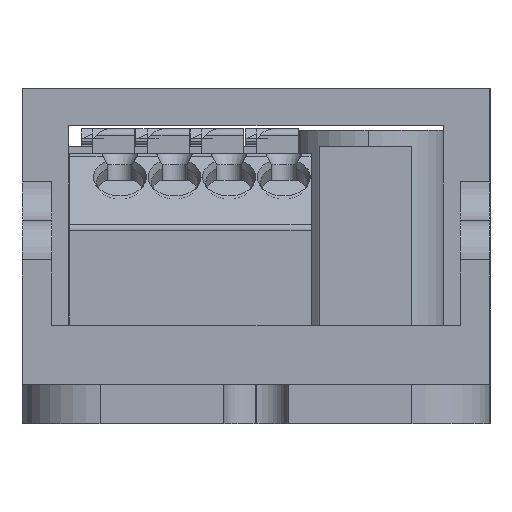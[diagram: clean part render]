
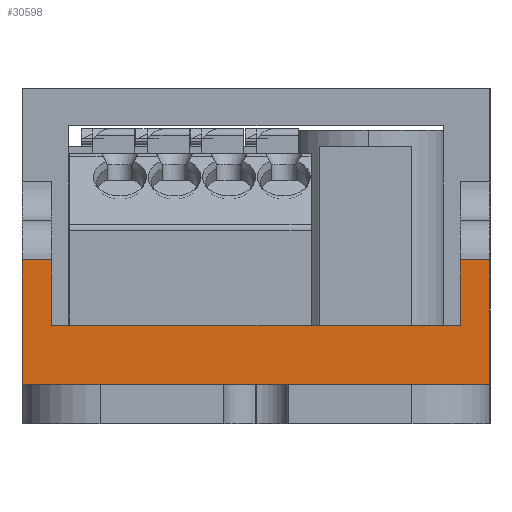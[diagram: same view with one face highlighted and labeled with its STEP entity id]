
A CAD part, left-side view. The second image highlights one B-rep face of the part: STEP entity #30598.
In plain terms, the highlighted planar face has unit normal (-1, 0, 0).
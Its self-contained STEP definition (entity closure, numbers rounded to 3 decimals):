
#108 = ORIENTED_EDGE ( 'NONE', *, *, #5681, .F. ) ;
#1494 = DIRECTION ( 'NONE',  ( 0., 0., 1. ) ) ;
#1638 = VECTOR ( 'NONE', #14636, 1000. ) ;
#1778 = DIRECTION ( 'NONE',  ( 0., 1., 0. ) ) ;
#2051 = VERTEX_POINT ( 'NONE', #5209 ) ;
#3719 = PLANE ( 'NONE',  #38130 ) ;
#4888 = VECTOR ( 'NONE', #23716, 1000. ) ;
#5209 = CARTESIAN_POINT ( 'NONE',  ( 7.9, 1.9, 6.3 ) ) ;
#5410 = VECTOR ( 'NONE', #10014, 1000. ) ;
#5681 = EDGE_CURVE ( 'NONE', #29736, #2051, #29822, .T. ) ;
#5984 = EDGE_LOOP ( 'NONE', ( #6986, #18323, #16624, #108, #21361, #30843, #20085, #23702 ) ) ;
#6226 = CARTESIAN_POINT ( 'NONE',  ( 7.9, 0., 21.5 ) ) ;
#6986 = ORIENTED_EDGE ( 'NONE', *, *, #22334, .F. ) ;
#9024 = VECTOR ( 'NONE', #26530, 1000. ) ;
#10014 = DIRECTION ( 'NONE',  ( 0., 1., 0. ) ) ;
#10332 = VERTEX_POINT ( 'NONE', #28298 ) ;
#12875 = CARTESIAN_POINT ( 'NONE',  ( 7.9, 1.9, 10.5 ) ) ;
#13686 = FACE_OUTER_BOUND ( 'NONE', #5984, .T. ) ;
#13724 = CARTESIAN_POINT ( 'NONE',  ( 7.9, 1.9, 10.5 ) ) ;
#14636 = DIRECTION ( 'NONE',  ( 0., 0., 1. ) ) ;
#15556 = VERTEX_POINT ( 'NONE', #38900 ) ;
#16199 = EDGE_CURVE ( 'NONE', #10332, #24171, #25554, .T. ) ;
#16357 = CARTESIAN_POINT ( 'NONE',  ( 7.9, 28.1, 6.3 ) ) ;
#16624 = ORIENTED_EDGE ( 'NONE', *, *, #40848, .F. ) ;
#17683 = CARTESIAN_POINT ( 'NONE',  ( 7.9, 28.1, 24.587 ) ) ;
#17884 = VECTOR ( 'NONE', #31753, 1000. ) ;
#17966 = LINE ( 'NONE', #30594, #1638 ) ;
#18120 = VERTEX_POINT ( 'NONE', #24875 ) ;
#18323 = ORIENTED_EDGE ( 'NONE', *, *, #16199, .T. ) ;
#19632 = VERTEX_POINT ( 'NONE', #27289 ) ;
#20085 = ORIENTED_EDGE ( 'NONE', *, *, #27046, .F. ) ;
#20401 = CARTESIAN_POINT ( 'NONE',  ( 7.9, 30., 10.5 ) ) ;
#20461 = EDGE_CURVE ( 'NONE', #20600, #19632, #39564, .T. ) ;
#20600 = VERTEX_POINT ( 'NONE', #31421 ) ;
#21262 = VECTOR ( 'NONE', #1494, 1000. ) ;
#21361 = ORIENTED_EDGE ( 'NONE', *, *, #22157, .F. ) ;
#22157 = EDGE_CURVE ( 'NONE', #18120, #29736, #30098, .T. ) ;
#22334 = EDGE_CURVE ( 'NONE', #10332, #20600, #34639, .T. ) ;
#23163 = EDGE_CURVE ( 'NONE', #18120, #15556, #35299, .T. ) ;
#23523 = LINE ( 'NONE', #32208, #21262 ) ;
#23702 = ORIENTED_EDGE ( 'NONE', *, *, #20461, .F. ) ;
#23716 = DIRECTION ( 'NONE',  ( 0., 0., -1. ) ) ;
#23941 = VECTOR ( 'NONE', #31534, 1000. ) ;
#24171 = VERTEX_POINT ( 'NONE', #13724 ) ;
#24875 = CARTESIAN_POINT ( 'NONE',  ( 7.9, 28.1, 10.5 ) ) ;
#25554 = LINE ( 'NONE', #12875, #17884 ) ;
#26388 = CARTESIAN_POINT ( 'NONE',  ( 7.9, 28.1, 6.3 ) ) ;
#26530 = DIRECTION ( 'NONE',  ( 0., -1., 0. ) ) ;
#27046 = EDGE_CURVE ( 'NONE', #19632, #15556, #17966, .T. ) ;
#27289 = CARTESIAN_POINT ( 'NONE',  ( 7.9, 30., 2.5 ) ) ;
#28298 = CARTESIAN_POINT ( 'NONE',  ( 7.9, 0., 10.5 ) ) ;
#29736 = VERTEX_POINT ( 'NONE', #26388 ) ;
#29822 = LINE ( 'NONE', #16357, #9024 ) ;
#30098 = LINE ( 'NONE', #17683, #4888 ) ;
#30195 = CARTESIAN_POINT ( 'NONE',  ( 7.9, 40.605, 2.5 ) ) ;
#30594 = CARTESIAN_POINT ( 'NONE',  ( 7.9, 30., 21.5 ) ) ;
#30598 = ADVANCED_FACE ( 'NONE', ( #13686 ), #3719, .F. ) ;
#30843 = ORIENTED_EDGE ( 'NONE', *, *, #23163, .T. ) ;
#31421 = CARTESIAN_POINT ( 'NONE',  ( 7.9, 0., 2.5 ) ) ;
#31534 = DIRECTION ( 'NONE',  ( 0., 0., -1. ) ) ;
#31753 = DIRECTION ( 'NONE',  ( 0., 1., 0. ) ) ;
#32208 = CARTESIAN_POINT ( 'NONE',  ( 7.9, 1.9, 24.587 ) ) ;
#34639 = LINE ( 'NONE', #6226, #23941 ) ;
#35299 = LINE ( 'NONE', #20401, #5410 ) ;
#35458 = CARTESIAN_POINT ( 'NONE',  ( 7.9, 40.605, 2.5 ) ) ;
#36152 = VECTOR ( 'NONE', #1778, 1000. ) ;
#38130 = AXIS2_PLACEMENT_3D ( 'NONE', #35458, #38580, #38785 ) ;
#38580 = DIRECTION ( 'NONE',  ( 1., 0., 0. ) ) ;
#38785 = DIRECTION ( 'NONE',  ( 0., 1., 0. ) ) ;
#38900 = CARTESIAN_POINT ( 'NONE',  ( 7.9, 30., 10.5 ) ) ;
#39564 = LINE ( 'NONE', #30195, #36152 ) ;
#40848 = EDGE_CURVE ( 'NONE', #2051, #24171, #23523, .T. ) ;
